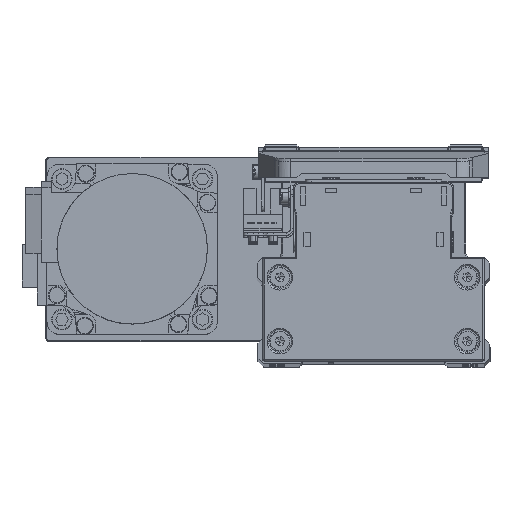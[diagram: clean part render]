
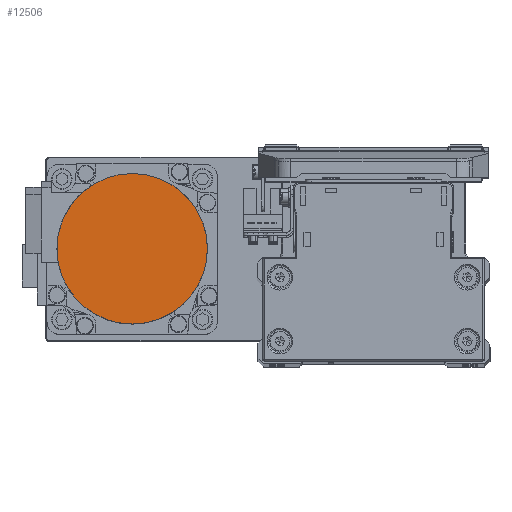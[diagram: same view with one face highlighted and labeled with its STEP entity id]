
A CAD part, top view. The second image highlights one B-rep face of the part: STEP entity #12506.
In plain terms, the highlighted planar face has unit normal (0, 0, 1) as drawn and (0, 0, -1) by its records, which use the part's own axes.
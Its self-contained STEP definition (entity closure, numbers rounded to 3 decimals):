
#1044 = DIRECTION ( 'NONE',  ( 0., 0., 1. ) ) ;
#1980 = EDGE_CURVE ( 'NONE', #23461, #7738, #21398, .T. ) ;
#3601 = AXIS2_PLACEMENT_3D ( 'NONE', #29361, #1044, #13642 ) ;
#5369 = CIRCLE ( 'NONE', #10656, 26.5 ) ;
#7052 = EDGE_LOOP ( 'NONE', ( #30545, #30885 ) ) ;
#7439 = CARTESIAN_POINT ( 'NONE',  ( -26.5, 0., -109.7 ) ) ;
#7738 = VERTEX_POINT ( 'NONE', #7439 ) ;
#8504 = DIRECTION ( 'NONE',  ( 0., 0., 1. ) ) ;
#8764 = CARTESIAN_POINT ( 'NONE',  ( 0., 0., -109.7 ) ) ;
#10656 = AXIS2_PLACEMENT_3D ( 'NONE', #36812, #8504, #21110 ) ;
#12506 = ADVANCED_FACE ( 'NONE', ( #24481 ), #37081, .F. ) ;
#13642 = DIRECTION ( 'NONE',  ( 1., 0., 0. ) ) ;
#16451 = EDGE_CURVE ( 'NONE', #7738, #23461, #5369, .T. ) ;
#21110 = DIRECTION ( 'NONE',  ( -1., 0., 0. ) ) ;
#21371 = DIRECTION ( 'NONE',  ( 0., 0., 1. ) ) ;
#21398 = CIRCLE ( 'NONE', #3601, 26.5 ) ;
#23461 = VERTEX_POINT ( 'NONE', #35175 ) ;
#24481 = FACE_OUTER_BOUND ( 'NONE', #7052, .T. ) ;
#25175 = AXIS2_PLACEMENT_3D ( 'NONE', #8764, #21371, #33972 ) ;
#29361 = CARTESIAN_POINT ( 'NONE',  ( 0., 0., -109.7 ) ) ;
#30545 = ORIENTED_EDGE ( 'NONE', *, *, #16451, .F. ) ;
#30885 = ORIENTED_EDGE ( 'NONE', *, *, #1980, .F. ) ;
#33972 = DIRECTION ( 'NONE',  ( 1., 0., 0. ) ) ;
#35175 = CARTESIAN_POINT ( 'NONE',  ( 26.5, 0., -109.7 ) ) ;
#36812 = CARTESIAN_POINT ( 'NONE',  ( 0., 0., -109.7 ) ) ;
#37081 = PLANE ( 'NONE',  #25175 ) ;
